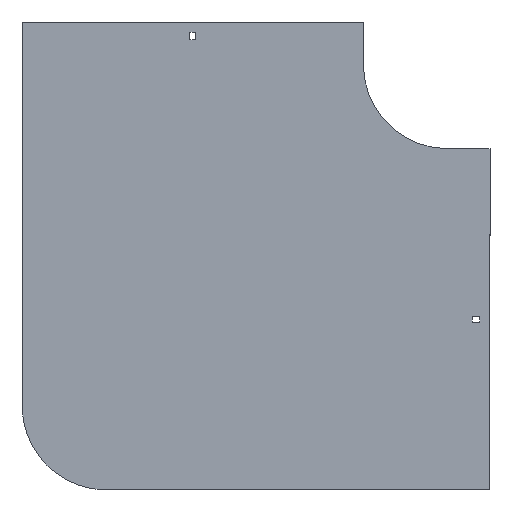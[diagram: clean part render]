
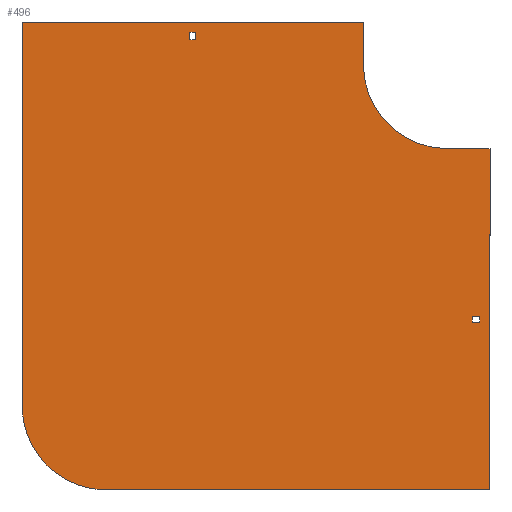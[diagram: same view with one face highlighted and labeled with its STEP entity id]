
A CAD part, front view. The second image highlights one B-rep face of the part: STEP entity #496.
In plain terms, the highlighted planar face has unit normal (0, -1, 0).
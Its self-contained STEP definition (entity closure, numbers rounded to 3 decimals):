
#6 = VERTEX_POINT ( 'NONE', #744 ) ;
#9 = CARTESIAN_POINT ( 'NONE',  ( 29., 0., -305.25 ) ) ;
#13 = VECTOR ( 'NONE', #633, 1000. ) ;
#22 = DIRECTION ( 'NONE',  ( 0., 0., 1. ) ) ;
#68 = CARTESIAN_POINT ( 'NONE',  ( 0., 0., -100. ) ) ;
#76 = EDGE_CURVE ( 'NONE', #1222, #655, #806, .T. ) ;
#81 = EDGE_LOOP ( 'NONE', ( #247, #1210, #644, #1075 ) ) ;
#98 = LINE ( 'NONE', #316, #1393 ) ;
#101 = VERTEX_POINT ( 'NONE', #534 ) ;
#110 = VECTOR ( 'NONE', #1078, 1000. ) ;
#112 = LINE ( 'NONE', #415, #13 ) ;
#114 = DIRECTION ( 'NONE',  ( 0., 0., -1. ) ) ;
#118 = CARTESIAN_POINT ( 'NONE',  ( 50., 0., -100. ) ) ;
#140 = CARTESIAN_POINT ( 'NONE',  ( -305.25, 0., 29. ) ) ;
#145 = VERTEX_POINT ( 'NONE', #118 ) ;
#150 = DIRECTION ( 'NONE',  ( 0., 0., 1. ) ) ;
#175 = EDGE_CURVE ( 'NONE', #786, #1274, #624, .T. ) ;
#193 = CARTESIAN_POINT ( 'NONE',  ( -305.25, 0., 38. ) ) ;
#196 = EDGE_CURVE ( 'NONE', #145, #1222, #206, .T. ) ;
#206 = LINE ( 'NONE', #762, #110 ) ;
#240 = CIRCLE ( 'NONE', #1058, 100. ) ;
#246 = DIRECTION ( 'NONE',  ( 0., -1., 0. ) ) ;
#247 = ORIENTED_EDGE ( 'NONE', *, *, #1311, .T. ) ;
#270 = DIRECTION ( 'NONE',  ( -1., 0., 0. ) ) ;
#280 = DIRECTION ( 'NONE',  ( 1., 0., 0. ) ) ;
#289 = VERTEX_POINT ( 'NONE', #669 ) ;
#296 = ORIENTED_EDGE ( 'NONE', *, *, #76, .F. ) ;
#312 = ORIENTED_EDGE ( 'NONE', *, *, #1077, .F. ) ;
#316 = CARTESIAN_POINT ( 'NONE',  ( 0., 0., -100. ) ) ;
#320 = CARTESIAN_POINT ( 'NONE',  ( 29., 0., -298.75 ) ) ;
#336 = FACE_OUTER_BOUND ( 'NONE', #1248, .T. ) ;
#339 = EDGE_CURVE ( 'NONE', #1007, #101, #698, .T. ) ;
#344 = CARTESIAN_POINT ( 'NONE',  ( 38., 0., -298.75 ) ) ;
#350 = CARTESIAN_POINT ( 'NONE',  ( 29., 0., -305.25 ) ) ;
#352 = CARTESIAN_POINT ( 'NONE',  ( 0., 0., 0. ) ) ;
#377 = VERTEX_POINT ( 'NONE', #1133 ) ;
#415 = CARTESIAN_POINT ( 'NONE',  ( -100., 0., 50. ) ) ;
#417 = CARTESIAN_POINT ( 'NONE',  ( -298.75, 0., 38. ) ) ;
#424 = VECTOR ( 'NONE', #634, 1000. ) ;
#434 = DIRECTION ( 'NONE',  ( 1., 0., 0. ) ) ;
#437 = ORIENTED_EDGE ( 'NONE', *, *, #175, .F. ) ;
#450 = LINE ( 'NONE', #870, #728 ) ;
#458 = VERTEX_POINT ( 'NONE', #9 ) ;
#468 = VERTEX_POINT ( 'NONE', #417 ) ;
#476 = DIRECTION ( 'NONE',  ( 1., 0., 0. ) ) ;
#487 = CARTESIAN_POINT ( 'NONE',  ( 38., 0., -305.25 ) ) ;
#496 = ADVANCED_FACE ( 'NONE', ( #653, #336, #1316 ), #767, .T. ) ;
#526 = VECTOR ( 'NONE', #780, 1000. ) ;
#534 = CARTESIAN_POINT ( 'NONE',  ( -100., 0., 50. ) ) ;
#540 = CARTESIAN_POINT ( 'NONE',  ( 0., 0., 0. ) ) ;
#542 = EDGE_CURVE ( 'NONE', #6, #468, #900, .T. ) ;
#567 = DIRECTION ( 'NONE',  ( 0., 0., 1. ) ) ;
#569 = DIRECTION ( 'NONE',  ( 0., 1., 0. ) ) ;
#587 = ORIENTED_EDGE ( 'NONE', *, *, #1165, .F. ) ;
#595 = ORIENTED_EDGE ( 'NONE', *, *, #1305, .F. ) ;
#596 = VECTOR ( 'NONE', #1015, 1000. ) ;
#624 = LINE ( 'NONE', #487, #596 ) ;
#633 = DIRECTION ( 'NONE',  ( 0., 0., -1. ) ) ;
#634 = DIRECTION ( 'NONE',  ( -1., 0., 0. ) ) ;
#640 = CARTESIAN_POINT ( 'NONE',  ( 50., 0., -504. ) ) ;
#644 = ORIENTED_EDGE ( 'NONE', *, *, #1394, .T. ) ;
#653 = FACE_BOUND ( 'NONE', #81, .T. ) ;
#655 = VERTEX_POINT ( 'NONE', #1069 ) ;
#661 = VECTOR ( 'NONE', #832, 1000. ) ;
#669 = CARTESIAN_POINT ( 'NONE',  ( -298.75, 0., 29. ) ) ;
#682 = CARTESIAN_POINT ( 'NONE',  ( -404., 0., -404. ) ) ;
#683 = EDGE_CURVE ( 'NONE', #736, #458, #850, .T. ) ;
#698 = LINE ( 'NONE', #807, #809 ) ;
#705 = ORIENTED_EDGE ( 'NONE', *, *, #814, .F. ) ;
#716 = CARTESIAN_POINT ( 'NONE',  ( -298.75, 0., 29. ) ) ;
#720 = EDGE_CURVE ( 'NONE', #1373, #145, #98, .T. ) ;
#728 = VECTOR ( 'NONE', #1327, 1000. ) ;
#730 = CARTESIAN_POINT ( 'NONE',  ( -100., 0., 0. ) ) ;
#736 = VERTEX_POINT ( 'NONE', #320 ) ;
#744 = CARTESIAN_POINT ( 'NONE',  ( -305.25, 0., 38. ) ) ;
#757 = ORIENTED_EDGE ( 'NONE', *, *, #339, .F. ) ;
#762 = CARTESIAN_POINT ( 'NONE',  ( 50., 0., -100. ) ) ;
#767 = PLANE ( 'NONE',  #967 ) ;
#772 = EDGE_CURVE ( 'NONE', #289, #377, #450, .T. ) ;
#779 = CARTESIAN_POINT ( 'NONE',  ( 29., 0., -298.75 ) ) ;
#780 = DIRECTION ( 'NONE',  ( 1., 0., 0. ) ) ;
#786 = VERTEX_POINT ( 'NONE', #970 ) ;
#798 = EDGE_CURVE ( 'NONE', #962, #1373, #1276, .T. ) ;
#806 = LINE ( 'NONE', #1117, #424 ) ;
#807 = CARTESIAN_POINT ( 'NONE',  ( -504., 0., 50. ) ) ;
#809 = VECTOR ( 'NONE', #476, 1000. ) ;
#814 = EDGE_CURVE ( 'NONE', #655, #1109, #240, .T. ) ;
#821 = ORIENTED_EDGE ( 'NONE', *, *, #798, .F. ) ;
#824 = CARTESIAN_POINT ( 'NONE',  ( -504., 0., 50. ) ) ;
#832 = DIRECTION ( 'NONE',  ( 0., 0., -1. ) ) ;
#850 = LINE ( 'NONE', #940, #1321 ) ;
#861 = ORIENTED_EDGE ( 'NONE', *, *, #1318, .F. ) ;
#867 = CARTESIAN_POINT ( 'NONE',  ( -504., 0., -404. ) ) ;
#870 = CARTESIAN_POINT ( 'NONE',  ( -305.25, 0., 29. ) ) ;
#887 = DIRECTION ( 'NONE',  ( 0., 0., -1. ) ) ;
#900 = LINE ( 'NONE', #193, #942 ) ;
#933 = LINE ( 'NONE', #716, #661 ) ;
#940 = CARTESIAN_POINT ( 'NONE',  ( 29., 0., -305.25 ) ) ;
#942 = VECTOR ( 'NONE', #280, 1000. ) ;
#962 = VERTEX_POINT ( 'NONE', #730 ) ;
#967 = AXIS2_PLACEMENT_3D ( 'NONE', #540, #1212, #887 ) ;
#968 = ORIENTED_EDGE ( 'NONE', *, *, #683, .F. ) ;
#970 = CARTESIAN_POINT ( 'NONE',  ( 38., 0., -305.25 ) ) ;
#980 = LINE ( 'NONE', #1096, #1247 ) ;
#988 = DIRECTION ( 'NONE',  ( 0., 0., -1. ) ) ;
#1007 = VERTEX_POINT ( 'NONE', #824 ) ;
#1015 = DIRECTION ( 'NONE',  ( 0., 0., 1. ) ) ;
#1058 = AXIS2_PLACEMENT_3D ( 'NONE', #682, #569, #150 ) ;
#1069 = CARTESIAN_POINT ( 'NONE',  ( -404., 0., -504. ) ) ;
#1075 = ORIENTED_EDGE ( 'NONE', *, *, #772, .T. ) ;
#1077 = EDGE_CURVE ( 'NONE', #101, #962, #112, .T. ) ;
#1078 = DIRECTION ( 'NONE',  ( 0., 0., -1. ) ) ;
#1096 = CARTESIAN_POINT ( 'NONE',  ( -504., 0., -404. ) ) ;
#1109 = VERTEX_POINT ( 'NONE', #867 ) ;
#1112 = ORIENTED_EDGE ( 'NONE', *, *, #196, .F. ) ;
#1117 = CARTESIAN_POINT ( 'NONE',  ( 50., 0., -504. ) ) ;
#1130 = ORIENTED_EDGE ( 'NONE', *, *, #720, .F. ) ;
#1133 = CARTESIAN_POINT ( 'NONE',  ( -305.25, 0., 29. ) ) ;
#1165 = EDGE_CURVE ( 'NONE', #458, #786, #1333, .T. ) ;
#1204 = EDGE_LOOP ( 'NONE', ( #437, #587, #968, #595 ) ) ;
#1210 = ORIENTED_EDGE ( 'NONE', *, *, #542, .T. ) ;
#1212 = DIRECTION ( 'NONE',  ( 0., -1., 0. ) ) ;
#1218 = AXIS2_PLACEMENT_3D ( 'NONE', #352, #246, #988 ) ;
#1222 = VERTEX_POINT ( 'NONE', #640 ) ;
#1233 = LINE ( 'NONE', #779, #1301 ) ;
#1247 = VECTOR ( 'NONE', #22, 1000. ) ;
#1248 = EDGE_LOOP ( 'NONE', ( #757, #861, #705, #296, #1112, #1130, #821, #312 ) ) ;
#1274 = VERTEX_POINT ( 'NONE', #344 ) ;
#1276 = CIRCLE ( 'NONE', #1218, 100. ) ;
#1301 = VECTOR ( 'NONE', #270, 1000. ) ;
#1305 = EDGE_CURVE ( 'NONE', #1274, #736, #1233, .T. ) ;
#1311 = EDGE_CURVE ( 'NONE', #377, #6, #1345, .T. ) ;
#1316 = FACE_BOUND ( 'NONE', #1204, .T. ) ;
#1318 = EDGE_CURVE ( 'NONE', #1109, #1007, #980, .T. ) ;
#1321 = VECTOR ( 'NONE', #114, 1000. ) ;
#1327 = DIRECTION ( 'NONE',  ( -1., 0., 0. ) ) ;
#1333 = LINE ( 'NONE', #350, #526 ) ;
#1345 = LINE ( 'NONE', #140, #1348 ) ;
#1348 = VECTOR ( 'NONE', #567, 1000. ) ;
#1373 = VERTEX_POINT ( 'NONE', #68 ) ;
#1393 = VECTOR ( 'NONE', #434, 1000. ) ;
#1394 = EDGE_CURVE ( 'NONE', #468, #289, #933, .T. ) ;
